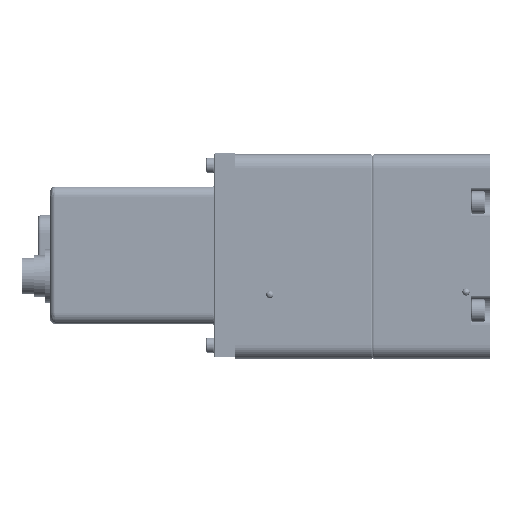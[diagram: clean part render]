
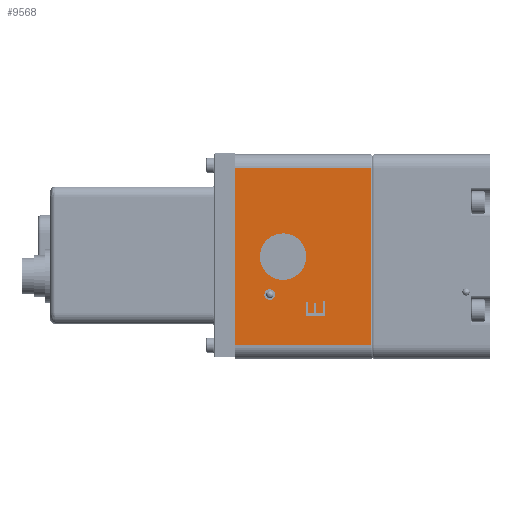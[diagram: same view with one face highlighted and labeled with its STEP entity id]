
A CAD part, left-side view. The second image highlights one B-rep face of the part: STEP entity #9568.
In plain terms, the highlighted planar face has unit normal (-1, 0, 0).
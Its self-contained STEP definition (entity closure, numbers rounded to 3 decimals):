
#216=FACE_BOUND('',#1538,.T.);
#217=FACE_BOUND('',#1539,.T.);
#218=FACE_BOUND('',#1540,.T.);
#346=PLANE('',#10380);
#934=FACE_OUTER_BOUND('',#1537,.T.);
#1537=EDGE_LOOP('',(#8526,#8527,#8528,#8529));
#1538=EDGE_LOOP('',(#8530,#8531,#8532,#8533,#8534,#8535,#8536,#8537,#8538,
#8539,#8540,#8541));
#1539=EDGE_LOOP('',(#8542));
#1540=EDGE_LOOP('',(#8543));
#1753=CIRCLE('',#10235,2.);
#1755=CIRCLE('',#10239,8.7);
#2801=LINE('',#31492,#3391);
#2805=LINE('',#31500,#3395);
#2808=LINE('',#31506,#3398);
#2811=LINE('',#31512,#3401);
#2814=LINE('',#31518,#3404);
#2817=LINE('',#31524,#3407);
#2820=LINE('',#31530,#3410);
#2823=LINE('',#31536,#3413);
#2826=LINE('',#31542,#3416);
#2829=LINE('',#31548,#3419);
#2832=LINE('',#31554,#3422);
#2835=LINE('',#31559,#3425);
#2936=LINE('',#36519,#3526);
#2938=LINE('',#36527,#3528);
#2944=LINE('',#36559,#3534);
#2946=LINE('',#36562,#3536);
#3391=VECTOR('',#12033,10.);
#3395=VECTOR('',#12039,10.);
#3398=VECTOR('',#12044,10.);
#3401=VECTOR('',#12049,10.);
#3404=VECTOR('',#12054,10.);
#3407=VECTOR('',#12059,10.);
#3410=VECTOR('',#12064,10.);
#3413=VECTOR('',#12069,10.);
#3416=VECTOR('',#12074,10.);
#3419=VECTOR('',#12079,10.);
#3422=VECTOR('',#12084,10.);
#3425=VECTOR('',#12089,10.);
#3526=VECTOR('',#12448,10.);
#3528=VECTOR('',#12458,10.);
#3534=VECTOR('',#12498,10.);
#3536=VECTOR('',#12502,10.);
#4308=VERTEX_POINT('',#31490);
#4309=VERTEX_POINT('',#31491);
#4312=VERTEX_POINT('',#31499);
#4314=VERTEX_POINT('',#31505);
#4316=VERTEX_POINT('',#31511);
#4318=VERTEX_POINT('',#31517);
#4320=VERTEX_POINT('',#31523);
#4322=VERTEX_POINT('',#31529);
#4324=VERTEX_POINT('',#31535);
#4326=VERTEX_POINT('',#31541);
#4328=VERTEX_POINT('',#31547);
#4330=VERTEX_POINT('',#31553);
#4334=VERTEX_POINT('',#31570);
#4336=VERTEX_POINT('',#31577);
#4443=VERTEX_POINT('',#36510);
#4445=VERTEX_POINT('',#36517);
#4447=VERTEX_POINT('',#36526);
#4455=VERTEX_POINT('',#36553);
#5604=EDGE_CURVE('',#4308,#4309,#2801,.T.);
#5608=EDGE_CURVE('',#4312,#4308,#2805,.T.);
#5611=EDGE_CURVE('',#4314,#4312,#2808,.T.);
#5614=EDGE_CURVE('',#4316,#4314,#2811,.T.);
#5617=EDGE_CURVE('',#4318,#4316,#2814,.T.);
#5620=EDGE_CURVE('',#4320,#4318,#2817,.T.);
#5623=EDGE_CURVE('',#4322,#4320,#2820,.T.);
#5626=EDGE_CURVE('',#4324,#4322,#2823,.T.);
#5629=EDGE_CURVE('',#4326,#4324,#2826,.T.);
#5632=EDGE_CURVE('',#4328,#4326,#2829,.T.);
#5635=EDGE_CURVE('',#4330,#4328,#2832,.T.);
#5638=EDGE_CURVE('',#4309,#4330,#2835,.T.);
#5643=EDGE_CURVE('',#4334,#4334,#1753,.T.);
#5646=EDGE_CURVE('',#4336,#4336,#1755,.T.);
#5822=EDGE_CURVE('',#4443,#4445,#2936,.T.);
#5825=EDGE_CURVE('',#4445,#4447,#2938,.T.);
#5842=EDGE_CURVE('',#4447,#4455,#2944,.T.);
#5844=EDGE_CURVE('',#4455,#4443,#2946,.T.);
#8526=ORIENTED_EDGE('',*,*,#5822,.F.);
#8527=ORIENTED_EDGE('',*,*,#5844,.F.);
#8528=ORIENTED_EDGE('',*,*,#5842,.F.);
#8529=ORIENTED_EDGE('',*,*,#5825,.F.);
#8530=ORIENTED_EDGE('',*,*,#5604,.T.);
#8531=ORIENTED_EDGE('',*,*,#5638,.T.);
#8532=ORIENTED_EDGE('',*,*,#5635,.T.);
#8533=ORIENTED_EDGE('',*,*,#5632,.T.);
#8534=ORIENTED_EDGE('',*,*,#5629,.T.);
#8535=ORIENTED_EDGE('',*,*,#5626,.T.);
#8536=ORIENTED_EDGE('',*,*,#5623,.T.);
#8537=ORIENTED_EDGE('',*,*,#5620,.T.);
#8538=ORIENTED_EDGE('',*,*,#5617,.T.);
#8539=ORIENTED_EDGE('',*,*,#5614,.T.);
#8540=ORIENTED_EDGE('',*,*,#5611,.T.);
#8541=ORIENTED_EDGE('',*,*,#5608,.T.);
#8542=ORIENTED_EDGE('',*,*,#5643,.T.);
#8543=ORIENTED_EDGE('',*,*,#5646,.T.);
#9568=ADVANCED_FACE('',(#934,#216,#217,#218),#346,.T.);
#10235=AXIS2_PLACEMENT_3D('',#31571,#12104,#12105);
#10239=AXIS2_PLACEMENT_3D('',#31578,#12113,#12114);
#10380=AXIS2_PLACEMENT_3D('',#36563,#12503,#12504);
#12033=DIRECTION('',(0.,-1.,0.));
#12039=DIRECTION('',(0.,0.,1.));
#12044=DIRECTION('',(0.,-1.,0.));
#12049=DIRECTION('',(0.,0.,-1.));
#12054=DIRECTION('',(0.,-1.,0.));
#12059=DIRECTION('',(0.,0.,1.));
#12064=DIRECTION('',(0.,-1.,0.));
#12069=DIRECTION('',(0.,0.,-1.));
#12074=DIRECTION('',(0.,-1.,0.));
#12079=DIRECTION('',(0.,0.,1.));
#12084=DIRECTION('',(0.,1.,0.));
#12089=DIRECTION('',(0.,0.,-1.));
#12104=DIRECTION('center_axis',(1.,0.,0.));
#12105=DIRECTION('ref_axis',(0.,0.,1.));
#12113=DIRECTION('center_axis',(1.,0.,0.));
#12114=DIRECTION('ref_axis',(0.,0.,1.));
#12448=DIRECTION('',(0.,1.,0.));
#12458=DIRECTION('',(0.,0.,1.));
#12498=DIRECTION('',(0.,-1.,0.));
#12502=DIRECTION('',(0.,0.,-1.));
#12503=DIRECTION('center_axis',(-1.,0.,0.));
#12504=DIRECTION('ref_axis',(0.,0.,1.));
#31490=CARTESIAN_POINT('',(-38.25,62.736,-16.793));
#31491=CARTESIAN_POINT('',(-38.25,61.891,-16.793));
#31492=CARTESIAN_POINT('',(-38.25,53.368,-16.793));
#31499=CARTESIAN_POINT('',(-38.25,62.736,-21.187));
#31500=CARTESIAN_POINT('',(-38.25,62.736,-29.719));
#31505=CARTESIAN_POINT('',(-38.25,65.172,-21.187));
#31506=CARTESIAN_POINT('',(-38.25,54.586,-21.187));
#31511=CARTESIAN_POINT('',(-38.25,65.172,-17.227));
#31512=CARTESIAN_POINT('',(-38.25,65.172,-27.739));
#31517=CARTESIAN_POINT('',(-38.25,66.012,-17.227));
#31518=CARTESIAN_POINT('',(-38.25,55.006,-17.227));
#31523=CARTESIAN_POINT('',(-38.25,66.012,-21.187));
#31524=CARTESIAN_POINT('',(-38.25,66.012,-29.719));
#31529=CARTESIAN_POINT('',(-38.25,68.205,-21.187));
#31530=CARTESIAN_POINT('',(-38.25,56.102,-21.187));
#31535=CARTESIAN_POINT('',(-38.25,68.205,-16.959));
#31536=CARTESIAN_POINT('',(-38.25,68.205,-27.604));
#31541=CARTESIAN_POINT('',(-38.25,69.049,-16.959));
#31542=CARTESIAN_POINT('',(-38.25,56.525,-16.959));
#31547=CARTESIAN_POINT('',(-38.25,69.049,-22.134));
#31548=CARTESIAN_POINT('',(-38.25,69.049,-30.192));
#31553=CARTESIAN_POINT('',(-38.25,61.891,-22.134));
#31554=CARTESIAN_POINT('',(-38.25,52.946,-22.134));
#31559=CARTESIAN_POINT('',(-38.25,61.891,-27.521));
#31570=CARTESIAN_POINT('',(-38.25,82.5,-16.25));
#31571=CARTESIAN_POINT('Origin',(-38.25,82.5,-14.25));
#31577=CARTESIAN_POINT('',(-38.25,77.5,-8.7));
#31578=CARTESIAN_POINT('Origin',(-38.25,77.5,0.));
#36510=CARTESIAN_POINT('',(-38.25,44.5,-33.25));
#36517=CARTESIAN_POINT('',(-38.25,95.5,-33.25));
#36519=CARTESIAN_POINT('',(-38.25,44.,-33.25));
#36526=CARTESIAN_POINT('',(-38.25,95.5,33.25));
#36527=CARTESIAN_POINT('',(-38.25,95.5,38.25));
#36553=CARTESIAN_POINT('',(-38.25,44.5,33.25));
#36559=CARTESIAN_POINT('',(-38.25,44.,33.25));
#36562=CARTESIAN_POINT('',(-38.25,44.5,-19.125));
#36563=CARTESIAN_POINT('Origin',(-38.25,44.,-38.25));
